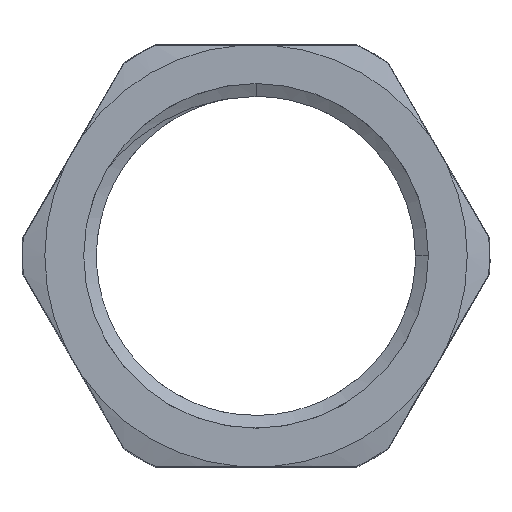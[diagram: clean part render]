
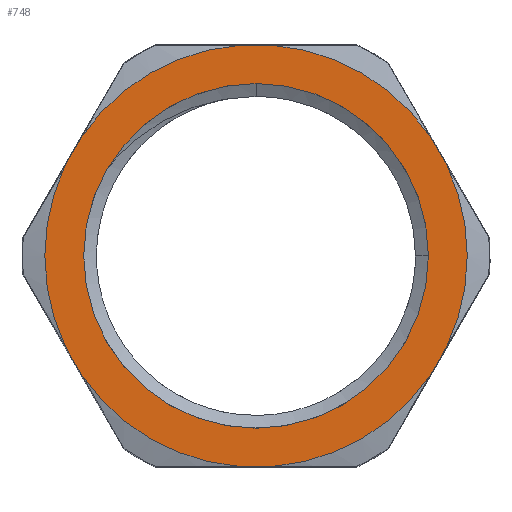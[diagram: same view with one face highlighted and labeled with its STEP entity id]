
A CAD part, top view. The second image highlights one B-rep face of the part: STEP entity #748.
In plain terms, the highlighted planar face has unit normal (0, 0, 1).
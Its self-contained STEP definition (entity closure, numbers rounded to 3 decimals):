
#6 = CARTESIAN_POINT ( 'NONE',  ( 15.249, 10.475, 6.5 ) ) ;
#45 = EDGE_CURVE ( 'NONE', #778, #1140, #2249, .T. ) ;
#147 = CARTESIAN_POINT ( 'NONE',  ( 0., 0., 6.5 ) ) ;
#165 = VERTEX_POINT ( 'NONE', #2091 ) ;
#207 = DIRECTION ( 'NONE',  ( 0.5, -0.866, 0. ) ) ;
#214 = AXIS2_PLACEMENT_3D ( 'NONE', #147, #848, #377 ) ;
#268 = VERTEX_POINT ( 'NONE', #6 ) ;
#271 = DIRECTION ( 'NONE',  ( 0., 0., 1. ) ) ;
#294 = CARTESIAN_POINT ( 'NONE',  ( -15.249, 10.475, 6.5 ) ) ;
#295 = CARTESIAN_POINT ( 'NONE',  ( -1.448, 18.443, 6.5 ) ) ;
#309 = VECTOR ( 'NONE', #2550, 1000. ) ;
#345 = ORIENTED_EDGE ( 'NONE', *, *, #1364, .T. ) ;
#353 = DIRECTION ( 'NONE',  ( 0., 0., -1. ) ) ;
#377 = DIRECTION ( 'NONE',  ( 1., 0., 0. ) ) ;
#383 = DIRECTION ( 'NONE',  ( -0.5, -0.866, 0. ) ) ;
#406 = FACE_OUTER_BOUND ( 'NONE', #1410, .T. ) ;
#411 = DIRECTION ( 'NONE',  ( 0., 1., 0. ) ) ;
#432 = ORIENTED_EDGE ( 'NONE', *, *, #2192, .F. ) ;
#450 = CIRCLE ( 'NONE', #2117, 18.5 ) ;
#463 = EDGE_LOOP ( 'NONE', ( #2384, #1904 ) ) ;
#575 = ORIENTED_EDGE ( 'NONE', *, *, #950, .F. ) ;
#578 = VECTOR ( 'NONE', #1189, 1000. ) ;
#588 = EDGE_CURVE ( 'NONE', #165, #268, #2287, .T. ) ;
#596 = CARTESIAN_POINT ( 'NONE',  ( -10.632, 18.472, 6.5 ) ) ;
#603 = VERTEX_POINT ( 'NONE', #2086 ) ;
#634 = VERTEX_POINT ( 'NONE', #1915 ) ;
#653 = CARTESIAN_POINT ( 'NONE',  ( 0., 0., 6.5 ) ) ;
#667 = ORIENTED_EDGE ( 'NONE', *, *, #2266, .T. ) ;
#679 = CIRCLE ( 'NONE', #2811, 15.1 ) ;
#701 = LINE ( 'NONE', #596, #1395 ) ;
#727 = EDGE_CURVE ( 'NONE', #634, #268, #1125, .T. ) ;
#748 = ADVANCED_FACE ( 'NONE', ( #1667, #406 ), #2749, .T. ) ;
#767 = AXIS2_PLACEMENT_3D ( 'NONE', #1428, #353, #1618 ) ;
#778 = VERTEX_POINT ( 'NONE', #2360 ) ;
#793 = DIRECTION ( 'NONE',  ( 0., 0., -1. ) ) ;
#826 = DIRECTION ( 'NONE',  ( 0., 1., 0. ) ) ;
#848 = DIRECTION ( 'NONE',  ( 0., 0., 1. ) ) ;
#898 = DIRECTION ( 'NONE',  ( 0., 0., -1. ) ) ;
#910 = CIRCLE ( 'NONE', #2075, 15.1 ) ;
#950 = EDGE_CURVE ( 'NONE', #165, #2357, #2115, .T. ) ;
#1010 = DIRECTION ( 'NONE',  ( 0., 0., -1. ) ) ;
#1053 = VERTEX_POINT ( 'NONE', #294 ) ;
#1062 = ORIENTED_EDGE ( 'NONE', *, *, #45, .T. ) ;
#1125 = CIRCLE ( 'NONE', #2160, 18.5 ) ;
#1128 = CIRCLE ( 'NONE', #1354, 18.5 ) ;
#1131 = CARTESIAN_POINT ( 'NONE',  ( 16.696, -7.968, 6.5 ) ) ;
#1139 = EDGE_CURVE ( 'NONE', #603, #1140, #2805, .T. ) ;
#1140 = VERTEX_POINT ( 'NONE', #1179 ) ;
#1147 = ORIENTED_EDGE ( 'NONE', *, *, #1767, .F. ) ;
#1179 = CARTESIAN_POINT ( 'NONE',  ( 1.448, -18.443, 6.5 ) ) ;
#1189 = DIRECTION ( 'NONE',  ( 1., 0., 0. ) ) ;
#1210 = CARTESIAN_POINT ( 'NONE',  ( 10.632, -18.472, 6.5 ) ) ;
#1354 = AXIS2_PLACEMENT_3D ( 'NONE', #653, #898, #411 ) ;
#1364 = EDGE_CURVE ( 'NONE', #1961, #1365, #1713, .T. ) ;
#1365 = VERTEX_POINT ( 'NONE', #1700 ) ;
#1395 = VECTOR ( 'NONE', #383, 1000. ) ;
#1410 = EDGE_LOOP ( 'NONE', ( #1707, #2585, #575, #2322, #2786, #667, #432, #1538, #1147, #345, #2489, #1062 ) ) ;
#1422 = VERTEX_POINT ( 'NONE', #2524 ) ;
#1428 = CARTESIAN_POINT ( 'NONE',  ( 0., 0., 6.5 ) ) ;
#1433 = CARTESIAN_POINT ( 'NONE',  ( 21.313, -0.028, 6.5 ) ) ;
#1437 = VECTOR ( 'NONE', #1449, 1000. ) ;
#1449 = DIRECTION ( 'NONE',  ( -0.5, 0.866, 0. ) ) ;
#1471 = DIRECTION ( 'NONE',  ( 1., 0., 0. ) ) ;
#1496 = CARTESIAN_POINT ( 'NONE',  ( 0., 0., 6.5 ) ) ;
#1538 = ORIENTED_EDGE ( 'NONE', *, *, #1744, .T. ) ;
#1558 = EDGE_CURVE ( 'NONE', #1912, #1422, #679, .T. ) ;
#1589 = CARTESIAN_POINT ( 'NONE',  ( 0., 0., 6.5 ) ) ;
#1618 = DIRECTION ( 'NONE',  ( 0., 1., 0. ) ) ;
#1631 = CARTESIAN_POINT ( 'NONE',  ( -10.681, -18.443, 6.5 ) ) ;
#1641 = CARTESIAN_POINT ( 'NONE',  ( 0., 0., 6.5 ) ) ;
#1651 = DIRECTION ( 'NONE',  ( 0.5, 0.866, 0. ) ) ;
#1667 = FACE_BOUND ( 'NONE', #463, .T. ) ;
#1687 = VERTEX_POINT ( 'NONE', #295 ) ;
#1700 = CARTESIAN_POINT ( 'NONE',  ( -15.249, -10.475, 6.5 ) ) ;
#1707 = ORIENTED_EDGE ( 'NONE', *, *, #1139, .F. ) ;
#1713 = LINE ( 'NONE', #2149, #1850 ) ;
#1724 = LINE ( 'NONE', #1936, #309 ) ;
#1744 = EDGE_CURVE ( 'NONE', #1053, #2220, #701, .T. ) ;
#1767 = EDGE_CURVE ( 'NONE', #1961, #2220, #450, .T. ) ;
#1813 = CARTESIAN_POINT ( 'NONE',  ( -16.696, -7.968, 6.5 ) ) ;
#1837 = DIRECTION ( 'NONE',  ( 0., 1., 0. ) ) ;
#1850 = VECTOR ( 'NONE', #207, 1000. ) ;
#1852 = VECTOR ( 'NONE', #1651, 1000. ) ;
#1855 = DIRECTION ( 'NONE',  ( 0., 1., 0. ) ) ;
#1882 = EDGE_CURVE ( 'NONE', #1422, #1912, #910, .T. ) ;
#1904 = ORIENTED_EDGE ( 'NONE', *, *, #1558, .F. ) ;
#1912 = VERTEX_POINT ( 'NONE', #2712 ) ;
#1915 = CARTESIAN_POINT ( 'NONE',  ( 1.448, 18.443, 6.5 ) ) ;
#1921 = DIRECTION ( 'NONE',  ( 0., 1., 0. ) ) ;
#1936 = CARTESIAN_POINT ( 'NONE',  ( 10.681, 18.443, 6.5 ) ) ;
#1951 = EDGE_CURVE ( 'NONE', #778, #1365, #1128, .T. ) ;
#1961 = VERTEX_POINT ( 'NONE', #1813 ) ;
#2026 = AXIS2_PLACEMENT_3D ( 'NONE', #2048, #2241, #1837 ) ;
#2048 = CARTESIAN_POINT ( 'NONE',  ( 0., 0., 6.5 ) ) ;
#2069 = CARTESIAN_POINT ( 'NONE',  ( 0., 0., 6.5 ) ) ;
#2075 = AXIS2_PLACEMENT_3D ( 'NONE', #2069, #2554, #1471 ) ;
#2086 = CARTESIAN_POINT ( 'NONE',  ( 15.249, -10.475, 6.5 ) ) ;
#2091 = CARTESIAN_POINT ( 'NONE',  ( 16.696, 7.968, 6.5 ) ) ;
#2115 = CIRCLE ( 'NONE', #2026, 18.5 ) ;
#2117 = AXIS2_PLACEMENT_3D ( 'NONE', #2336, #1010, #826 ) ;
#2149 = CARTESIAN_POINT ( 'NONE',  ( -21.313, 0.028, 6.5 ) ) ;
#2160 = AXIS2_PLACEMENT_3D ( 'NONE', #1496, #2317, #1921 ) ;
#2192 = EDGE_CURVE ( 'NONE', #1053, #1687, #2209, .T. ) ;
#2209 = CIRCLE ( 'NONE', #2626, 18.5 ) ;
#2220 = VERTEX_POINT ( 'NONE', #2725 ) ;
#2241 = DIRECTION ( 'NONE',  ( 0., 0., -1. ) ) ;
#2249 = LINE ( 'NONE', #1631, #578 ) ;
#2266 = EDGE_CURVE ( 'NONE', #634, #1687, #1724, .T. ) ;
#2287 = LINE ( 'NONE', #1433, #1437 ) ;
#2317 = DIRECTION ( 'NONE',  ( 0., 0., -1. ) ) ;
#2322 = ORIENTED_EDGE ( 'NONE', *, *, #588, .T. ) ;
#2336 = CARTESIAN_POINT ( 'NONE',  ( 0., 0., 6.5 ) ) ;
#2357 = VERTEX_POINT ( 'NONE', #1131 ) ;
#2360 = CARTESIAN_POINT ( 'NONE',  ( -1.448, -18.443, 6.5 ) ) ;
#2384 = ORIENTED_EDGE ( 'NONE', *, *, #1882, .F. ) ;
#2424 = DIRECTION ( 'NONE',  ( 1., 0., 0. ) ) ;
#2475 = EDGE_CURVE ( 'NONE', #603, #2357, #2721, .T. ) ;
#2489 = ORIENTED_EDGE ( 'NONE', *, *, #1951, .F. ) ;
#2524 = CARTESIAN_POINT ( 'NONE',  ( 15.1, 0., 6.5 ) ) ;
#2550 = DIRECTION ( 'NONE',  ( -1., 0., 0. ) ) ;
#2554 = DIRECTION ( 'NONE',  ( 0., 0., 1. ) ) ;
#2585 = ORIENTED_EDGE ( 'NONE', *, *, #2475, .T. ) ;
#2626 = AXIS2_PLACEMENT_3D ( 'NONE', #1641, #793, #1855 ) ;
#2712 = CARTESIAN_POINT ( 'NONE',  ( -15.1, 0., 6.5 ) ) ;
#2721 = LINE ( 'NONE', #1210, #1852 ) ;
#2725 = CARTESIAN_POINT ( 'NONE',  ( -16.696, 7.968, 6.5 ) ) ;
#2749 = PLANE ( 'NONE',  #214 ) ;
#2786 = ORIENTED_EDGE ( 'NONE', *, *, #727, .F. ) ;
#2805 = CIRCLE ( 'NONE', #767, 18.5 ) ;
#2811 = AXIS2_PLACEMENT_3D ( 'NONE', #1589, #271, #2424 ) ;
